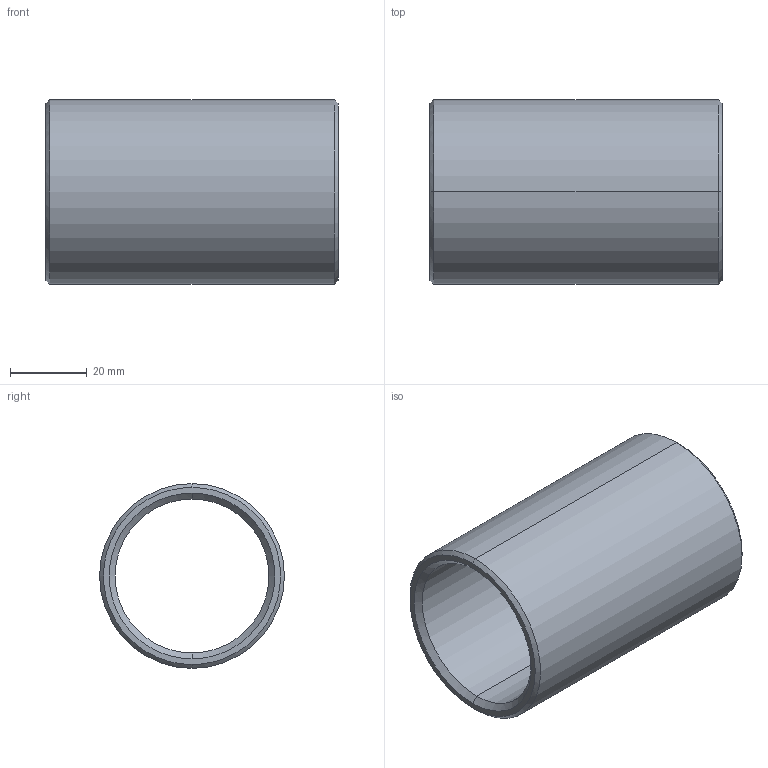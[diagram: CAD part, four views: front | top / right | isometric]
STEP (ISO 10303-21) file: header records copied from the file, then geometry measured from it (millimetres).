
FILE_DESCRIPTION(('CATIA V5 STEP Exchange'),'2;1');
FILE_NAME('C:\Users\Utente\Desktop\IO LAVORO\3D X SITO CF\X SITO\PLASTICA\352\352-40X76.stp','2021-04-14T14:52:54+00:00',('none'),('none'),'CATIA Version 5 Release 20 GA (IN-10)','CATIA V5 STEP AP203','none');
FILE_SCHEMA(('CONFIG_CONTROL_DESIGN'));
Length unit declared in the file: millimetre
Products named in the file (1): 352-40X76
Bounding box: 76 x 48 x 48 mm (x, y, z)
Volume: 41701.1 mm3; surface area: 21776.6 mm2
Topology: 1 solids, 1 shells, 14 faces, 44 edges, 32 vertices
Faces by surface type: cone 6, cylinder 4, plane 2, torus 2
Entity records: 634 total; most frequent: CARTESIAN_POINT 203, ORIENTED_EDGE 88, DIRECTION 64, EDGE_CURVE 44, AXIS2_PLACEMENT_3D 41, VERTEX_POINT 32, CIRCLE 26, EDGE_LOOP 16
